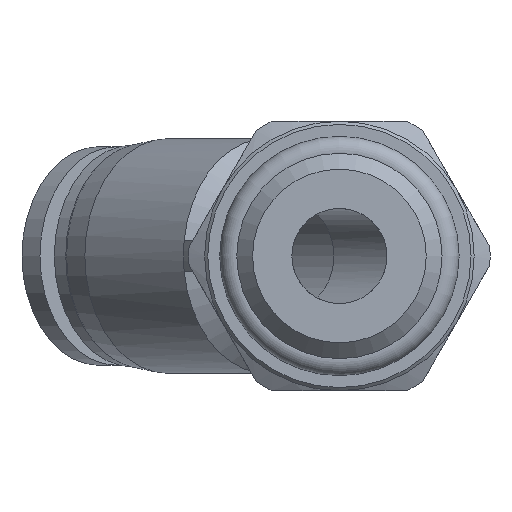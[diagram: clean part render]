
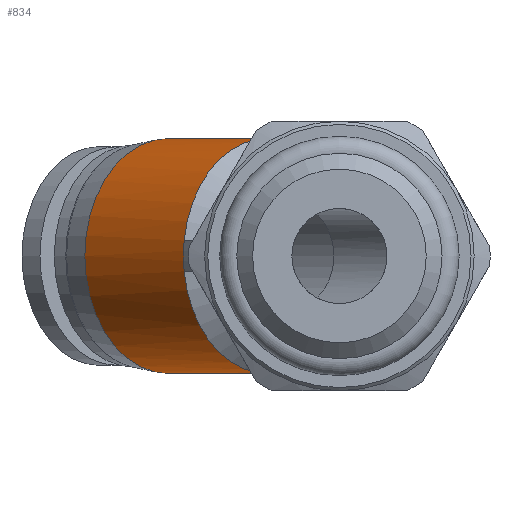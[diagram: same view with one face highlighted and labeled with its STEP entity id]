
A CAD part, front view. The second image highlights one B-rep face of the part: STEP entity #834.
In plain terms, the highlighted cylindrical face has radius 7.4 mm (diameter 14.8 mm), a full revolution.
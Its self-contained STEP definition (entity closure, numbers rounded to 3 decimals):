
#23=FACE_BOUND('',#218,.T.);
#56=CYLINDRICAL_SURFACE('',#936,7.4);
#149=FACE_OUTER_BOUND('',#217,.T.);
#217=EDGE_LOOP('',(#701));
#218=EDGE_LOOP('',(#702,#703));
#267=CIRCLE('',#872,7.4);
#297=CIRCLE('',#935,7.4);
#298=CIRCLE('',#937,7.4);
#376=VERTEX_POINT('',#1286);
#377=VERTEX_POINT('',#1288);
#425=VERTEX_POINT('',#1488);
#457=EDGE_CURVE('',#377,#376,#267,.T.);
#529=EDGE_CURVE('',#425,#425,#297,.T.);
#530=EDGE_CURVE('',#376,#377,#298,.T.);
#701=ORIENTED_EDGE('',*,*,#529,.T.);
#702=ORIENTED_EDGE('',*,*,#530,.F.);
#703=ORIENTED_EDGE('',*,*,#457,.F.);
#834=ADVANCED_FACE('',(#149,#23),#56,.T.);
#872=AXIS2_PLACEMENT_3D('',#1290,#1017,#1018);
#935=AXIS2_PLACEMENT_3D('',#1489,#1159,#1160);
#936=AXIS2_PLACEMENT_3D('',#1490,#1161,#1162);
#937=AXIS2_PLACEMENT_3D('',#1491,#1163,#1164);
#1017=DIRECTION('center_axis',(0.707,-0.707,0.));
#1018=DIRECTION('ref_axis',(0.707,0.707,0.));
#1159=DIRECTION('center_axis',(0.707,-0.707,0.));
#1160=DIRECTION('ref_axis',(0.707,0.707,0.));
#1161=DIRECTION('center_axis',(0.707,-0.707,0.));
#1162=DIRECTION('ref_axis',(0.707,0.707,0.));
#1163=DIRECTION('center_axis',(0.707,-0.707,0.));
#1164=DIRECTION('ref_axis',(0.707,0.707,0.));
#1286=CARTESIAN_POINT('',(-9.79,24.896,-0.966));
#1288=CARTESIAN_POINT('',(-9.79,24.896,0.966));
#1290=CARTESIAN_POINT('Origin',(-4.602,30.084,0.));
#1488=CARTESIAN_POINT('',(-5.592,41.539,0.));
#1489=CARTESIAN_POINT('Origin',(-10.825,36.306,0.));
#1490=CARTESIAN_POINT('Origin',(-7.713,33.195,0.));
#1491=CARTESIAN_POINT('Origin',(-4.602,30.084,0.));
